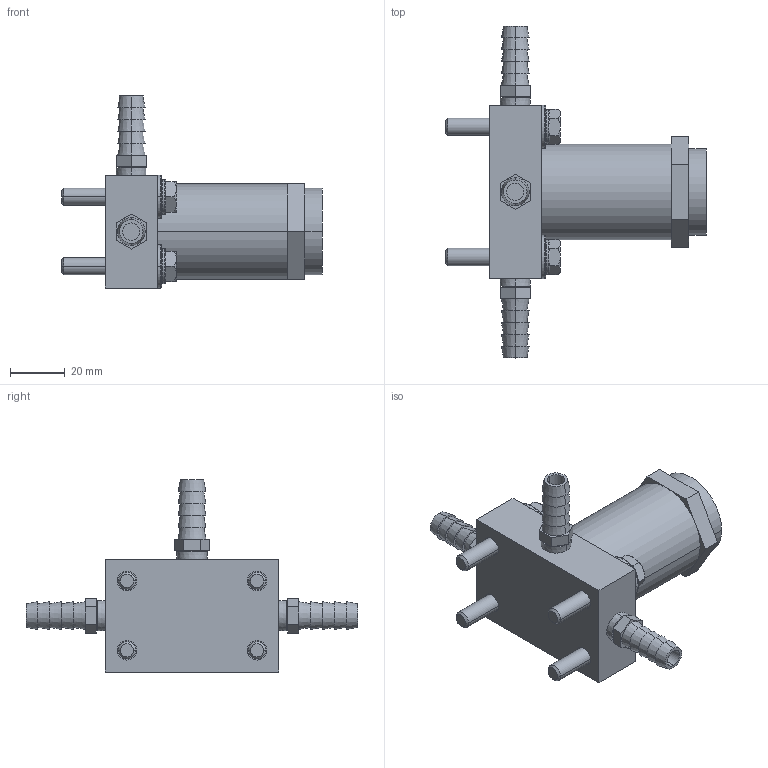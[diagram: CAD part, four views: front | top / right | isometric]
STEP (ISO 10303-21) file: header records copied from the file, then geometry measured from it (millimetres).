
FILE_DESCRIPTION((''),'2;1');
FILE_NAME('UL3_ASM','2017-08-24T',('jennifer.elliott'),('CenterLine (Windsor) Ltd - Automation Components Division'),'PRO/ENGINEER BY PARAMETRIC TECHNOLOGY CORPORATION, 2015030','PRO/ENGINEER BY PARAMETRIC TECHNOLOGY CORPORATION, 2015030','');
FILE_SCHEMA(('AUTOMOTIVE_DESIGN { 1 0 10303 214 1 1 1 1 }'));
Length unit declared in the file: inch
Products named in the file (17): PRT0626; PRT0627; PRT0628; PRT0629; PRT0630; PRT0631; PRT0632; PRT0633; PRT0634; PRT0635; PRT0636; ASM0005_ASM; PRT0637; PRT0638; PRT0639; TMP_DWG-3DSOLID_83; UL3_ASM
Assembly tree (16 placements, depth 3):
  UL3_ASM
    PRT0626
    PRT0627
    PRT0628
    PRT0629
    PRT0630
    PRT0631
    PRT0632
    ASM0005_ASM
      PRT0633
      PRT0634
      PRT0635
      PRT0636
    PRT0637
    PRT0638
    PRT0639
    TMP_DWG-3DSOLID_83
Bounding box: 95.25 x 121.41 x 70.23 mm (x, y, z)
Volume: 116153.1 mm3; surface area: 34733.2 mm2
Topology: 15 solids, 15 shells, 263 faces, 604 edges, 396 vertices
Faces by surface type: plane 119, cone 68, cylinder 52, torus 24
Entity records: 8918 total; most frequent: CARTESIAN_POINT 1798, DIRECTION 1392, ORIENTED_EDGE 1208, EDGE_CURVE 604, AXIS2_PLACEMENT_3D 576, VERTEX_POINT 396, EDGE_LOOP 310, CIRCLE 276
